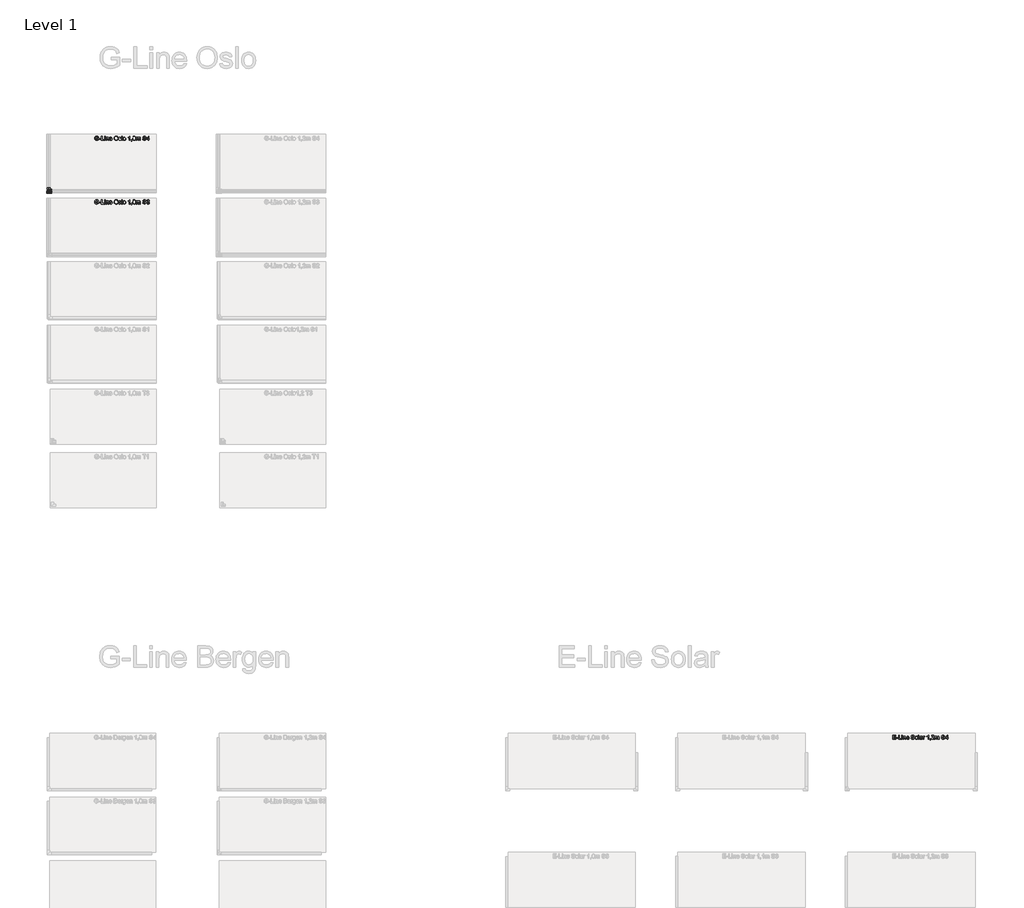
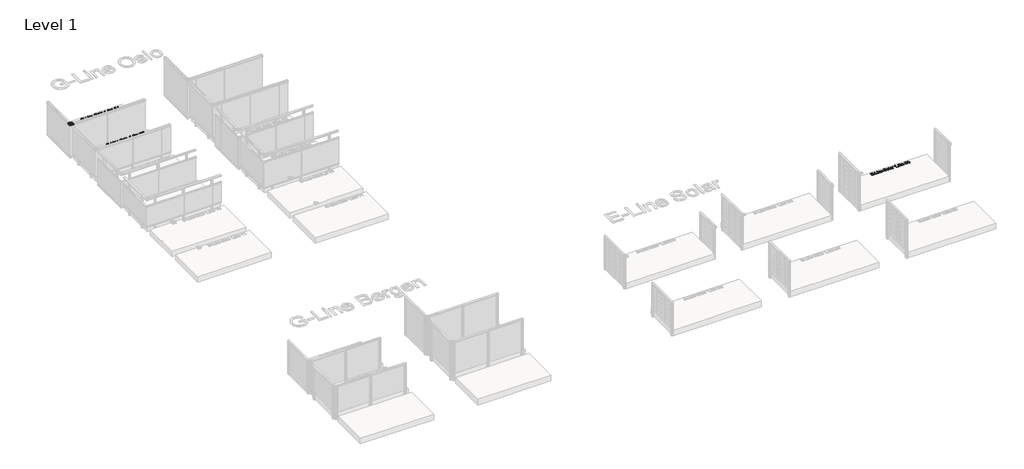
# One storey, part 65 of 66: 4 proxies.
"""IFC4 building model written with IfcOpenShell, lengths in millimetres."""

from ifc_helpers import new_model, si_unit, origin, origin_with_axes, place, context, project, spatial, polyline, outline, extrude, transform, mapped, element, save
from components import generic_models_224f447f

model = new_model("IFC4")

# Units and contexts
model_context = context("Model", 3, world=origin())
ifc_project = project(units=[si_unit("LENGTHUNIT", "METRE", prefix="MILLI")], contexts=[model_context])

# Site, building, storey
site = spatial("IfcSite", under=ifc_project)
building = spatial("IfcBuilding", under=site)
storey = spatial("IfcBuildingStorey", under=building, Name="Level 1", Elevation=0.0)

# Proxies
placement = place(None, origin())
generic_models_shape = generic_models_224f447f(model_context)
element("IfcBuildingElementProxy", 1, Name="Innore top rail 81x35 corner element : Innore top rail 81x35 element", ObjectType="Innore top rail 81x35 corner element : Innore top rail 81x35 element", at=placement, inside=storey, context=model_context, shape_type="MappedRepresentation", body=[
    mapped(generic_models_shape, transform((4465.4055183, 17090.2194821, 1000.0), x_axis=(0.0, -1.0, 0.0), y_axis=(1.0, 0.0, 0.0), z_axis=(0.0, 0.0, 1.0))),
])
element("IfcBuildingElementProxy", 2, Name="100mm Arial", ObjectType="100mm Arial", at=placement, inside=storey, context=model_context, shape_type="SweptSolid", body=[
    extrude(outline(polyline([(5608.6537991, 16829.5293902), (5608.6537991, 16842.086429), (5649.4641751, 16842.086429), (5649.4641751, 16804.53794), (5629.3165045, 16792.6921398), (5608.0161369, 16788.7190142), (5593.9293222, 16790.2978411), (5581.1975395, 16795.0343218), (5570.6209321, 16802.7629094), (5562.9996435, 16813.318057), (5558.3919215, 16825.979329), (5556.8560141, 16840.0262898), (5558.3857901, 16854.1744182), (5562.975118, 16867.3353966), (5570.4339255, 16878.3749221), (5580.5721401, 16886.158692), (5592.9207124, 16890.7756111), (5607.0105928, 16892.3145841), (5626.6554914, 16888.7461287), (5640.4265407, 16878.8133149), (5648.0171726, 16862.1973114), (5636.4411524, 16858.9354244), (5630.714456, 16870.5482327), (5620.928795, 16877.243685), (5606.8143891, 16879.7575453), (5590.7379459, 16877.0474813), (5579.7995879, 16869.935096), (5573.3371275, 16860.2597996), (5569.4130529, 16840.5413246), (5574.1342052, 16818.6523459), (5587.8684663, 16805.5557469), (5607.0105928, 16801.276053), (5624.190682, 16804.5011518), (5636.9071363, 16811.3805451), (5636.9071363, 16829.5293902), (5608.6537991, 16829.5293902)])), origin_with_axes(), (0.0, 0.0, 1.0), 10.0),
    extrude(outline(polyline([(5662.0212138, 16820.1116112), (5662.0212138, 16832.6686499), (5701.26196, 16832.6686499), (5701.26196, 16820.1116112), (5662.0212138, 16820.1116112)])), origin_with_axes(), (0.0, 0.0, 1.0), 10.0),
    extrude(outline(polyline([(5716.9582584, 16790.2886441), (5716.9582584, 16890.7449542), (5729.5152972, 16890.7449542), (5729.5152972, 16802.8456829), (5779.7434523, 16802.8456829), (5779.7434523, 16790.2886441), (5716.9582584, 16790.2886441)])), origin_with_axes(), (0.0, 0.0, 1.0), 10.0),
    extrude(outline(polyline([(5792.3004911, 16878.1879155), (5792.3004911, 16890.7449542), (5804.8575298, 16890.7449542), (5804.8575298, 16878.1879155), (5792.3004911, 16878.1879155)])), origin_with_axes(), (0.0, 0.0, 1.0), 10.0),
    extrude(outline(polyline([(5792.3004911, 16790.2886441), (5792.3004911, 16864.0612468), (5804.8575298, 16864.0612468), (5804.8575298, 16790.2886441), (5792.3004911, 16790.2886441)])), origin_with_axes(), (0.0, 0.0, 1.0), 10.0),
    extrude(outline(polyline([(5823.693088, 16790.2886441), (5823.693088, 16864.0612468), (5836.2501268, 16864.0612468), (5836.2501268, 16853.760551), (5845.8518468, 16862.6632953), (5858.9607086, 16865.6308767), (5870.8187716, 16863.2396437), (5878.9121755, 16856.9611243), (5882.6768345, 16847.7272863), (5883.3390221, 16835.5871804), (5883.3390221, 16790.2886441), (5870.7819834, 16790.2886441), (5870.7819834, 16833.8949232), (5869.3349809, 16845.0049595), (5864.2214211, 16850.8788087), (5855.6007197, 16853.0738379), (5841.9768231, 16848.1442192), (5837.6818009, 16841.0011771), (5836.2501268, 16829.4312884), (5836.2501268, 16790.2886441), (5823.693088, 16790.2886441)])), origin_with_axes(), (0.0, 0.0, 1.0), 10.0),
    extrude(outline(polyline([(5952.2555826, 16812.2634619), (5964.5673667, 16810.6938321), (5960.1313229, 16801.4170744), (5953.0526602, 16794.4824988), (5943.490794, 16790.1598854), (5931.6051399, 16788.7190142), (5916.871466, 16791.2052834), (5905.5345692, 16798.6640908), (5898.305688, 16810.6110586), (5895.8960609, 16826.5618088), (5898.3302134, 16843.0490536), (5905.632671, 16855.3792318), (5916.8162837, 16863.0679655), (5930.8939014, 16865.6308767), (5944.5331263, 16863.0740968), (5955.4316305, 16855.4037572), (5962.5777382, 16843.0981045), (5964.9597741, 16826.6353852), (5964.8861977, 16823.2508709), (5908.4530997, 16823.2508709), (5910.6266691, 16813.8514859), (5915.6758495, 16806.9414357), (5922.9629787, 16802.6923987), (5931.8503946, 16801.276053), (5944.1621787, 16803.9002779), (5952.2555826, 16812.2634619)]), holes=[polyline([(5908.4530997, 16835.8079096), (5952.4027354, 16835.8079096), (5947.3750148, 16847.187726), (5940.0541631, 16851.6023099), (5930.8448504, 16853.0738379), (5915.3815439, 16848.3772111), (5910.5163045, 16842.8865723), (5908.4530997, 16835.8079096)])]), origin_with_axes(), (0.0, 0.0, 1.0), 10.0),
    extrude(outline(polyline([(6013.6182994, 16839.192424), (6016.9660255, 16861.4063651), (6027.009204, 16878.2124409), (6042.3437518, 16888.7890483), (6061.5655861, 16892.3145841), (6074.7418929, 16890.6591151), (6086.5570363, 16885.6927082), (6096.3672228, 16877.7648512), (6103.528659, 16867.225032), (6107.9064547, 16854.5821541), (6109.36572, 16840.3451209), (6107.8298126, 16825.9180153), (6103.2220907, 16813.0973278), (6095.7970057, 16802.5391145), (6085.8090095, 16794.8994318), (6074.0950337, 16790.2641186), (6061.4920097, 16788.7190142), (6048.1133678, 16790.4265998), (6036.2307793, 16795.5493566), (6026.4451183, 16803.6243664), (6019.3572585, 16814.188711), (6013.6182994, 16839.192424)]), holes=[polyline([(6026.1753381, 16839.0697966), (6028.6861327, 16823.3551041), (6036.2185166, 16811.3805451), (6047.540085, 16803.802176), (6061.4184333, 16801.276053), (6075.4991166, 16803.8267015), (6086.8390791, 16811.478647), (6094.3162807, 16823.8210879), (6096.8086812, 16840.4432228), (6092.5412501, 16861.1672418), (6080.0700504, 16874.8892402), (6061.6391625, 16879.7575453), (6048.1317619, 16877.4122976), (6036.6477123, 16870.3765544), (6028.7934317, 16857.8593695), (6026.1753381, 16839.0697966)])]), origin_with_axes(), (0.0, 0.0, 1.0), 10.0),
    extrude(outline(polyline([(6120.3531289, 16812.2634619), (6132.9101677, 16813.8330918), (6138.7227032, 16804.5134146), (6152.0400314, 16801.276053), (6164.8423248, 16804.2436344), (6169.0116541, 16811.2088669), (6164.8177994, 16816.8497241), (6151.8928786, 16820.4304422), (6132.9837441, 16826.5740715), (6124.7309246, 16833.7477704), (6121.9227587, 16843.876788), (6124.1791016, 16853.2332535), (6130.3349937, 16860.3824269), (6138.318033, 16864.098035), (6149.1215009, 16865.6308767), (6164.4008665, 16863.1660673), (6174.1129511, 16856.4951405), (6178.4294332, 16845.2256887), (6165.8723944, 16843.6560589), (6161.1512422, 16850.5845031), (6150.1025196, 16853.0738379), (6138.0850411, 16850.6948677), (6134.4797975, 16845.1521123), (6135.975851, 16841.4978178), (6140.660215, 16838.7264401), (6151.4759457, 16836.0531643), (6169.9068336, 16830.1425269), (6178.4662214, 16823.4470746), (6181.5686929, 16812.5332421), (6177.9266611, 16800.5157635), (6167.4174988, 16791.7969603), (6151.8683531, 16788.7190142), (6139.2070811, 16790.202805), (6129.9671117, 16794.6541771), (6123.7989569, 16802.0240797), (6120.3531289, 16812.2634619)])), origin_with_axes(), (0.0, 0.0, 1.0), 10.0),
    extrude(outline(polyline([(6195.6953615, 16790.2886441), (6195.6953615, 16890.7449542), (6208.2524003, 16890.7449542), (6208.2524003, 16790.2886441), (6195.6953615, 16790.2886441)])), origin_with_axes(), (0.0, 0.0, 1.0), 10.0),
    extrude(outline(polyline([(6223.9486987, 16827.1749455), (6226.6648941, 16844.9620399), (6234.8134803, 16857.4638964), (6244.8811843, 16863.5891316), (6256.935451, 16865.6308767), (6270.1270862, 16863.1446075), (6280.6638397, 16855.6858001), (6287.5708241, 16843.8430655), (6289.8731523, 16828.2050151), (6285.8019249, 16805.8623152), (6273.9438619, 16793.2194373), (6256.935451, 16788.7190142), (6243.5844002, 16791.1960863), (6233.0599095, 16798.6273026), (6226.2265014, 16810.7183575), (6223.9486987, 16827.1749455)]), holes=[polyline([(6236.5057375, 16827.1994709), (6237.9588714, 16815.834983), (6242.318273, 16807.7385134), (6248.8788353, 16802.8916681), (6256.935451, 16801.276053), (6264.9552785, 16802.9008652), (6271.503578, 16807.7753016), (6275.8629796, 16815.9790701), (6277.3161135, 16827.5918784), (6275.8537826, 16838.6252726), (6271.4667898, 16846.6113775), (6264.9092932, 16851.4582228), (6256.935451, 16853.0738379), (6248.8788353, 16851.4643542), (6242.318273, 16846.635903), (6237.9588714, 16838.5578275), (6236.5057375, 16827.1994709)])]), origin_with_axes(), (0.0, 0.0, 1.0), 10.0),
    extrude(outline(polyline([(6387.1902027, 16790.2886441), (6374.633164, 16790.2886441), (6374.633164, 16868.5739327), (6362.7383128, 16860.100384), (6349.5190864, 16853.760551), (6349.5190864, 16865.6308767), (6367.9254489, 16877.3785751), (6379.0967988, 16890.7449542), (6387.1902027, 16890.7449542), (6387.1902027, 16790.2886441)])), origin_with_axes(), (0.0, 0.0, 1.0), 10.0),
    extrude(outline(polyline([(6423.2916892, 16790.2886441), (6423.2916892, 16802.8456829), (6435.848728, 16802.8456829), (6435.848728, 16790.2886441), (6433.5923851, 16777.4495625), (6426.4309489, 16769.8834561), (6423.2916892, 16774.5923456), (6427.9024769, 16780.0124737), (6429.5456831, 16790.2886441), (6423.2916892, 16790.2886441)])), origin_with_axes(), (0.0, 0.0, 1.0), 10.0),
    extrude(outline(polyline([(6456.253916, 16839.7074588), (6459.9449986, 16868.6107209), (6470.9078821, 16885.2757752), (6489.2161427, 16890.7449542), (6503.8823716, 16887.5075927), (6514.0113892, 16878.1756527), (6519.8975011, 16863.3132201), (6522.1783695, 16839.7074588), (6518.524075, 16810.926824), (6507.5979798, 16794.2249814), (6499.3666201, 16790.095506), (6489.2161427, 16788.7190142), (6476.1685946, 16791.1102472), (6466.2603062, 16798.2839461), (6458.7555135, 16815.2739629), (6456.253916, 16839.7074588)]), holes=[polyline([(6468.8109547, 16839.7319842), (6470.2824827, 16819.9797868), (6474.6970666, 16808.5478538), (6481.2698916, 16803.0940032), (6489.2161427, 16801.276053), (6497.1623938, 16803.1001346), (6503.7352188, 16808.5723792), (6508.1498027, 16820.0104436), (6509.6213307, 16839.7319842), (6508.1988537, 16859.0396576), (6503.9314225, 16870.5604954), (6497.3708603, 16876.2810605), (6489.0689899, 16878.1879155), (6481.208578, 16876.507921), (6474.8932704, 16871.4679377), (6470.3315336, 16859.22973), (6468.8109547, 16839.7319842)])]), origin_with_axes(), (0.0, 0.0, 1.0), 10.0),
    extrude(outline(polyline([(6536.3050381, 16790.2886441), (6536.3050381, 16864.0612468), (6548.8620769, 16864.0612468), (6548.8620769, 16851.921141), (6557.495041, 16861.8662176), (6569.7822997, 16865.6308767), (6582.3638639, 16861.7926412), (6589.2800454, 16851.0382242), (6599.0779692, 16861.9827136), (6611.451067, 16865.6308767), (6620.8903058, 16864.1133635), (6627.8708667, 16859.5608238), (6632.1842831, 16851.8506303), (6633.6220886, 16840.8601557), (6633.6220886, 16790.2886441), (6621.0650498, 16790.2886441), (6621.0650498, 16835.4645531), (6619.9000901, 16845.94919), (6615.6817099, 16851.1118006), (6608.508011, 16853.0738379), (6596.1594387, 16848.0461173), (6592.4714217, 16841.5039492), (6591.2420827, 16831.9328859), (6591.2420827, 16790.2886441), (6578.685044, 16790.2886441), (6578.685044, 16836.8625047), (6575.7787762, 16849.027136), (6566.2506325, 16853.0738379), (6556.9554808, 16850.3760366), (6550.7750633, 16842.4788365), (6548.8620769, 16827.4937765), (6548.8620769, 16790.2886441), (6536.3050381, 16790.2886441)])), origin_with_axes(), (0.0, 0.0, 1.0), 10.0),
    extrude(outline(polyline([(6688.5591332, 16824.8205007), (6701.1161719, 16824.8205007), (6705.1628739, 16812.2511992), (6715.0466368, 16804.3049481), (6730.1052732, 16801.276053), (6743.2263977, 16803.5691841), (6751.6999463, 16809.872229), (6754.4835867, 16818.2967266), (6752.3989221, 16826.1326131), (6743.8640598, 16831.8347841), (6725.5803246, 16836.6295127), (6705.8986379, 16842.822193), (6695.2177973, 16852.1663957), (6691.6983929, 16864.649858), (6696.0516631, 16878.8623658), (6708.7681174, 16888.8932815), (6727.3829464, 16892.3145841), (6747.2485741, 16888.733866), (6760.492326, 16878.2124409), (6765.4709956, 16862.491617), (6752.9139569, 16862.491617), (6750.608563, 16869.984147), (6745.8015716, 16875.3920123), (6727.8734557, 16879.7575453), (6709.8962889, 16875.4410632), (6704.2554316, 16865.01774), (6708.2530827, 16856.3111995), (6728.7563725, 16849.2969161), (6750.976445, 16842.9938713), (6763.1288136, 16832.8158027), (6767.0406255, 16818.6155577), (6762.5402024, 16803.5937096), (6749.5907562, 16792.6308261), (6730.5957825, 16788.7190142), (6708.1672435, 16792.9373944), (6693.9792612, 16805.641586), (6688.5591332, 16824.8205007)])), origin_with_axes(), (0.0, 0.0, 1.0), 10.0),
    extrude(outline(polyline([(6781.1672941, 16816.9723515), (6793.7243329, 16818.5419813), (6800.6527771, 16805.322755), (6813.6144861, 16801.276053), (6822.2229248, 16802.6678732), (6828.8693261, 16806.8433339), (6834.5347089, 16820.626646), (6828.9183771, 16833.6128804), (6814.6445557, 16838.7509656), (6805.8399132, 16837.3775395), (6807.2378648, 16849.9345782), (6809.2489531, 16849.7874254), (6823.498249, 16853.392669), (6828.2439267, 16857.9666685), (6829.8258193, 16864.4781798), (6825.2395571, 16874.300629), (6813.4182823, 16878.1879155), (6801.4498548, 16874.2638408), (6795.2939627, 16862.491617), (6782.7369239, 16864.0612468), (6786.434138, 16875.33683), (6793.0130943, 16883.7551963), (6802.0139405, 16888.9975148), (6812.9768239, 16890.7449542), (6828.1212994, 16887.2991262), (6838.7163009, 16877.8813471), (6842.3828581, 16865.2139438), (6838.9002419, 16853.6379237), (6828.599546, 16845.3237906), (6842.2847562, 16836.7398773), (6847.0917476, 16820.4059168), (6844.6882519, 16808.167709), (6837.4777648, 16797.9405896), (6826.5945891, 16791.0244081), (6813.1730277, 16788.7190142), (6801.0329218, 16790.6871829), (6791.1491589, 16796.5916889), (6784.275897, 16805.6231919), (6781.1672941, 16816.9723515)])), origin_with_axes(), (0.0, 0.0, 1.0), 10.0),
])
element("IfcBuildingElementProxy", 3, Name="100mm Arial", ObjectType="100mm Arial", at=placement, inside=storey, context=model_context, shape_type="SweptSolid", body=[
    extrude(outline(polyline([(5608.6537991, 18329.5293902), (5608.6537991, 18342.086429), (5649.4641751, 18342.086429), (5649.4641751, 18304.53794), (5629.3165045, 18292.6921398), (5608.0161369, 18288.7190142), (5593.9293222, 18290.2978411), (5581.1975395, 18295.0343218), (5570.6209321, 18302.7629094), (5562.9996435, 18313.318057), (5558.3919215, 18325.979329), (5556.8560141, 18340.0262898), (5558.3857901, 18354.1744182), (5562.975118, 18367.3353966), (5570.4339255, 18378.3749221), (5580.5721401, 18386.158692), (5592.9207124, 18390.7756111), (5607.0105928, 18392.3145841), (5626.6554914, 18388.7461287), (5640.4265407, 18378.8133149), (5648.0171726, 18362.1973114), (5636.4411524, 18358.9354244), (5630.714456, 18370.5482327), (5620.928795, 18377.243685), (5606.8143891, 18379.7575453), (5590.7379459, 18377.0474813), (5579.7995879, 18369.935096), (5573.3371275, 18360.2597996), (5569.4130529, 18340.5413246), (5574.1342052, 18318.6523459), (5587.8684663, 18305.5557469), (5607.0105928, 18301.276053), (5624.190682, 18304.5011518), (5636.9071363, 18311.3805451), (5636.9071363, 18329.5293902), (5608.6537991, 18329.5293902)])), origin_with_axes(), (0.0, 0.0, 1.0), 10.0),
    extrude(outline(polyline([(5662.0212138, 18320.1116112), (5662.0212138, 18332.6686499), (5701.26196, 18332.6686499), (5701.26196, 18320.1116112), (5662.0212138, 18320.1116112)])), origin_with_axes(), (0.0, 0.0, 1.0), 10.0),
    extrude(outline(polyline([(5716.9582584, 18290.2886441), (5716.9582584, 18390.7449542), (5729.5152972, 18390.7449542), (5729.5152972, 18302.8456829), (5779.7434523, 18302.8456829), (5779.7434523, 18290.2886441), (5716.9582584, 18290.2886441)])), origin_with_axes(), (0.0, 0.0, 1.0), 10.0),
    extrude(outline(polyline([(5792.3004911, 18378.1879155), (5792.3004911, 18390.7449542), (5804.8575298, 18390.7449542), (5804.8575298, 18378.1879155), (5792.3004911, 18378.1879155)])), origin_with_axes(), (0.0, 0.0, 1.0), 10.0),
    extrude(outline(polyline([(5792.3004911, 18290.2886441), (5792.3004911, 18364.0612468), (5804.8575298, 18364.0612468), (5804.8575298, 18290.2886441), (5792.3004911, 18290.2886441)])), origin_with_axes(), (0.0, 0.0, 1.0), 10.0),
    extrude(outline(polyline([(5823.693088, 18290.2886441), (5823.693088, 18364.0612468), (5836.2501268, 18364.0612468), (5836.2501268, 18353.760551), (5845.8518468, 18362.6632953), (5858.9607086, 18365.6308767), (5870.8187716, 18363.2396437), (5878.9121755, 18356.9611243), (5882.6768345, 18347.7272863), (5883.3390221, 18335.5871804), (5883.3390221, 18290.2886441), (5870.7819834, 18290.2886441), (5870.7819834, 18333.8949232), (5869.3349809, 18345.0049595), (5864.2214211, 18350.8788087), (5855.6007197, 18353.0738379), (5841.9768231, 18348.1442192), (5837.6818009, 18341.0011771), (5836.2501268, 18329.4312884), (5836.2501268, 18290.2886441), (5823.693088, 18290.2886441)])), origin_with_axes(), (0.0, 0.0, 1.0), 10.0),
    extrude(outline(polyline([(5952.2555826, 18312.2634619), (5964.5673667, 18310.6938321), (5960.1313229, 18301.4170744), (5953.0526602, 18294.4824988), (5943.490794, 18290.1598854), (5931.6051399, 18288.7190142), (5916.871466, 18291.2052834), (5905.5345692, 18298.6640908), (5898.305688, 18310.6110586), (5895.8960609, 18326.5618088), (5898.3302134, 18343.0490536), (5905.632671, 18355.3792318), (5916.8162837, 18363.0679655), (5930.8939014, 18365.6308767), (5944.5331263, 18363.0740968), (5955.4316305, 18355.4037572), (5962.5777382, 18343.0981045), (5964.9597741, 18326.6353852), (5964.8861977, 18323.2508709), (5908.4530997, 18323.2508709), (5910.6266691, 18313.8514859), (5915.6758495, 18306.9414357), (5922.9629787, 18302.6923987), (5931.8503946, 18301.276053), (5944.1621787, 18303.9002779), (5952.2555826, 18312.2634619)]), holes=[polyline([(5908.4530997, 18335.8079096), (5952.4027354, 18335.8079096), (5947.3750148, 18347.187726), (5940.0541631, 18351.6023099), (5930.8448504, 18353.0738379), (5915.3815439, 18348.3772111), (5910.5163045, 18342.8865723), (5908.4530997, 18335.8079096)])]), origin_with_axes(), (0.0, 0.0, 1.0), 10.0),
    extrude(outline(polyline([(6013.6182994, 18339.192424), (6016.9660255, 18361.4063651), (6027.009204, 18378.2124409), (6042.3437518, 18388.7890483), (6061.5655861, 18392.3145841), (6074.7418929, 18390.6591151), (6086.5570363, 18385.6927082), (6096.3672228, 18377.7648512), (6103.528659, 18367.225032), (6107.9064547, 18354.5821541), (6109.36572, 18340.3451209), (6107.8298126, 18325.9180153), (6103.2220907, 18313.0973278), (6095.7970057, 18302.5391145), (6085.8090095, 18294.8994318), (6074.0950337, 18290.2641186), (6061.4920097, 18288.7190142), (6048.1133678, 18290.4265998), (6036.2307793, 18295.5493566), (6026.4451183, 18303.6243664), (6019.3572585, 18314.188711), (6013.6182994, 18339.192424)]), holes=[polyline([(6026.1753381, 18339.0697966), (6028.6861327, 18323.3551041), (6036.2185166, 18311.3805451), (6047.540085, 18303.802176), (6061.4184333, 18301.276053), (6075.4991166, 18303.8267015), (6086.8390791, 18311.478647), (6094.3162807, 18323.8210879), (6096.8086812, 18340.4432228), (6092.5412501, 18361.1672418), (6080.0700504, 18374.8892402), (6061.6391625, 18379.7575453), (6048.1317619, 18377.4122976), (6036.6477123, 18370.3765544), (6028.7934317, 18357.8593695), (6026.1753381, 18339.0697966)])]), origin_with_axes(), (0.0, 0.0, 1.0), 10.0),
    extrude(outline(polyline([(6120.3531289, 18312.2634619), (6132.9101677, 18313.8330918), (6138.7227032, 18304.5134146), (6152.0400314, 18301.276053), (6164.8423248, 18304.2436344), (6169.0116541, 18311.2088669), (6164.8177994, 18316.8497241), (6151.8928786, 18320.4304422), (6132.9837441, 18326.5740715), (6124.7309246, 18333.7477704), (6121.9227587, 18343.876788), (6124.1791016, 18353.2332535), (6130.3349937, 18360.3824269), (6138.318033, 18364.098035), (6149.1215009, 18365.6308767), (6164.4008665, 18363.1660673), (6174.1129511, 18356.4951405), (6178.4294332, 18345.2256887), (6165.8723944, 18343.6560589), (6161.1512422, 18350.5845031), (6150.1025196, 18353.0738379), (6138.0850411, 18350.6948677), (6134.4797975, 18345.1521123), (6135.975851, 18341.4978178), (6140.660215, 18338.7264401), (6151.4759457, 18336.0531643), (6169.9068336, 18330.1425269), (6178.4662214, 18323.4470746), (6181.5686929, 18312.5332421), (6177.9266611, 18300.5157635), (6167.4174988, 18291.7969603), (6151.8683531, 18288.7190142), (6139.2070811, 18290.202805), (6129.9671117, 18294.6541771), (6123.7989569, 18302.0240797), (6120.3531289, 18312.2634619)])), origin_with_axes(), (0.0, 0.0, 1.0), 10.0),
    extrude(outline(polyline([(6195.6953615, 18290.2886441), (6195.6953615, 18390.7449542), (6208.2524003, 18390.7449542), (6208.2524003, 18290.2886441), (6195.6953615, 18290.2886441)])), origin_with_axes(), (0.0, 0.0, 1.0), 10.0),
    extrude(outline(polyline([(6223.9486987, 18327.1749455), (6226.6648941, 18344.9620399), (6234.8134803, 18357.4638964), (6244.8811843, 18363.5891316), (6256.935451, 18365.6308767), (6270.1270862, 18363.1446075), (6280.6638397, 18355.6858001), (6287.5708241, 18343.8430655), (6289.8731523, 18328.2050151), (6285.8019249, 18305.8623152), (6273.9438619, 18293.2194373), (6256.935451, 18288.7190142), (6243.5844002, 18291.1960863), (6233.0599095, 18298.6273026), (6226.2265014, 18310.7183575), (6223.9486987, 18327.1749455)]), holes=[polyline([(6236.5057375, 18327.1994709), (6237.9588714, 18315.834983), (6242.318273, 18307.7385134), (6248.8788353, 18302.8916681), (6256.935451, 18301.276053), (6264.9552785, 18302.9008652), (6271.503578, 18307.7753016), (6275.8629796, 18315.9790701), (6277.3161135, 18327.5918784), (6275.8537826, 18338.6252726), (6271.4667898, 18346.6113775), (6264.9092932, 18351.4582228), (6256.935451, 18353.0738379), (6248.8788353, 18351.4643542), (6242.318273, 18346.635903), (6237.9588714, 18338.5578275), (6236.5057375, 18327.1994709)])]), origin_with_axes(), (0.0, 0.0, 1.0), 10.0),
    extrude(outline(polyline([(6387.1902027, 18290.2886441), (6374.633164, 18290.2886441), (6374.633164, 18368.5739327), (6362.7383128, 18360.100384), (6349.5190864, 18353.760551), (6349.5190864, 18365.6308767), (6367.9254489, 18377.3785751), (6379.0967988, 18390.7449542), (6387.1902027, 18390.7449542), (6387.1902027, 18290.2886441)])), origin_with_axes(), (0.0, 0.0, 1.0), 10.0),
    extrude(outline(polyline([(6423.2916892, 18290.2886441), (6423.2916892, 18302.8456829), (6435.848728, 18302.8456829), (6435.848728, 18290.2886441), (6433.5923851, 18277.4495625), (6426.4309489, 18269.8834561), (6423.2916892, 18274.5923456), (6427.9024769, 18280.0124737), (6429.5456831, 18290.2886441), (6423.2916892, 18290.2886441)])), origin_with_axes(), (0.0, 0.0, 1.0), 10.0),
    extrude(outline(polyline([(6456.253916, 18339.7074588), (6459.9449986, 18368.6107209), (6470.9078821, 18385.2757752), (6489.2161427, 18390.7449542), (6503.8823716, 18387.5075927), (6514.0113892, 18378.1756527), (6519.8975011, 18363.3132201), (6522.1783695, 18339.7074588), (6518.524075, 18310.926824), (6507.5979798, 18294.2249814), (6499.3666201, 18290.095506), (6489.2161427, 18288.7190142), (6476.1685946, 18291.1102472), (6466.2603062, 18298.2839461), (6458.7555135, 18315.2739629), (6456.253916, 18339.7074588)]), holes=[polyline([(6468.8109547, 18339.7319842), (6470.2824827, 18319.9797868), (6474.6970666, 18308.5478538), (6481.2698916, 18303.0940032), (6489.2161427, 18301.276053), (6497.1623938, 18303.1001346), (6503.7352188, 18308.5723792), (6508.1498027, 18320.0104436), (6509.6213307, 18339.7319842), (6508.1988537, 18359.0396576), (6503.9314225, 18370.5604954), (6497.3708603, 18376.2810605), (6489.0689899, 18378.1879155), (6481.208578, 18376.507921), (6474.8932704, 18371.4679377), (6470.3315336, 18359.22973), (6468.8109547, 18339.7319842)])]), origin_with_axes(), (0.0, 0.0, 1.0), 10.0),
    extrude(outline(polyline([(6536.3050381, 18290.2886441), (6536.3050381, 18364.0612468), (6548.8620769, 18364.0612468), (6548.8620769, 18351.921141), (6557.495041, 18361.8662176), (6569.7822997, 18365.6308767), (6582.3638639, 18361.7926412), (6589.2800454, 18351.0382242), (6599.0779692, 18361.9827136), (6611.451067, 18365.6308767), (6620.8903058, 18364.1133635), (6627.8708667, 18359.5608238), (6632.1842831, 18351.8506303), (6633.6220886, 18340.8601557), (6633.6220886, 18290.2886441), (6621.0650498, 18290.2886441), (6621.0650498, 18335.4645531), (6619.9000901, 18345.94919), (6615.6817099, 18351.1118006), (6608.508011, 18353.0738379), (6596.1594387, 18348.0461173), (6592.4714217, 18341.5039492), (6591.2420827, 18331.9328859), (6591.2420827, 18290.2886441), (6578.685044, 18290.2886441), (6578.685044, 18336.8625047), (6575.7787762, 18349.027136), (6566.2506325, 18353.0738379), (6556.9554808, 18350.3760366), (6550.7750633, 18342.4788365), (6548.8620769, 18327.4937765), (6548.8620769, 18290.2886441), (6536.3050381, 18290.2886441)])), origin_with_axes(), (0.0, 0.0, 1.0), 10.0),
    extrude(outline(polyline([(6688.5591332, 18324.8205007), (6701.1161719, 18324.8205007), (6705.1628739, 18312.2511992), (6715.0466368, 18304.3049481), (6730.1052732, 18301.276053), (6743.2263977, 18303.5691841), (6751.6999463, 18309.872229), (6754.4835867, 18318.2967266), (6752.3989221, 18326.1326131), (6743.8640598, 18331.8347841), (6725.5803246, 18336.6295127), (6705.8986379, 18342.822193), (6695.2177973, 18352.1663957), (6691.6983929, 18364.649858), (6696.0516631, 18378.8623658), (6708.7681174, 18388.8932815), (6727.3829464, 18392.3145841), (6747.2485741, 18388.733866), (6760.492326, 18378.2124409), (6765.4709956, 18362.491617), (6752.9139569, 18362.491617), (6750.608563, 18369.984147), (6745.8015716, 18375.3920123), (6727.8734557, 18379.7575453), (6709.8962889, 18375.4410632), (6704.2554316, 18365.01774), (6708.2530827, 18356.3111995), (6728.7563725, 18349.2969161), (6750.976445, 18342.9938713), (6763.1288136, 18332.8158027), (6767.0406255, 18318.6155577), (6762.5402024, 18303.5937096), (6749.5907562, 18292.6308261), (6730.5957825, 18288.7190142), (6708.1672435, 18292.9373944), (6693.9792612, 18305.641586), (6688.5591332, 18324.8205007)])), origin_with_axes(), (0.0, 0.0, 1.0), 10.0),
    extrude(outline(polyline([(6821.9776701, 18290.2886441), (6821.9776701, 18313.8330918), (6776.4584046, 18313.8330918), (6776.4584046, 18326.3901305), (6825.1169298, 18389.1753244), (6834.5347089, 18389.1753244), (6834.5347089, 18326.3901305), (6847.0917476, 18326.3901305), (6847.0917476, 18313.8330918), (6834.5347089, 18313.8330918), (6834.5347089, 18290.2886441), (6821.9776701, 18290.2886441)]), holes=[polyline([(6821.9776701, 18326.3901305), (6821.9776701, 18365.1894183), (6791.9094484, 18326.3901305), (6821.9776701, 18326.3901305)])]), origin_with_axes(), (0.0, 0.0, 1.0), 10.0),
])
element("IfcBuildingElementProxy", 4, Name="100mm Arial", ObjectType="100mm Arial", at=placement, inside=storey, context=model_context, shape_type="SweptSolid", body=[
    extrude(outline(polyline([(24354.036482, 4178.8815979), (24354.036482, 4279.3379081), (24426.2394549, 4279.3379081), (24426.2394549, 4266.7808693), (24366.5935207, 4266.7808693), (24366.5935207, 4236.9579022), (24423.1001952, 4236.9579022), (24423.1001952, 4224.4008635), (24366.5935207, 4224.4008635), (24366.5935207, 4191.4386367), (24427.8090847, 4191.4386367), (24427.8090847, 4178.8815979), (24354.036482, 4178.8815979)])), origin_with_axes(), (0.0, 0.0, 1.0), 10.0),
    extrude(outline(polyline([(24438.7964936, 4208.704565), (24438.7964936, 4221.2616038), (24478.0372398, 4221.2616038), (24478.0372398, 4208.704565), (24438.7964936, 4208.704565)])), origin_with_axes(), (0.0, 0.0, 1.0), 10.0),
    extrude(outline(polyline([(24493.7335383, 4178.8815979), (24493.7335383, 4279.3379081), (24506.290577, 4279.3379081), (24506.290577, 4191.4386367), (24556.5187321, 4191.4386367), (24556.5187321, 4178.8815979), (24493.7335383, 4178.8815979)])), origin_with_axes(), (0.0, 0.0, 1.0), 10.0),
    extrude(outline(polyline([(24569.0757709, 4266.7808693), (24569.0757709, 4279.3379081), (24581.6328096, 4279.3379081), (24581.6328096, 4266.7808693), (24569.0757709, 4266.7808693)])), origin_with_axes(), (0.0, 0.0, 1.0), 10.0),
    extrude(outline(polyline([(24569.0757709, 4178.8815979), (24569.0757709, 4252.6542007), (24581.6328096, 4252.6542007), (24581.6328096, 4178.8815979), (24569.0757709, 4178.8815979)])), origin_with_axes(), (0.0, 0.0, 1.0), 10.0),
    extrude(outline(polyline([(24600.4683678, 4178.8815979), (24600.4683678, 4252.6542007), (24613.0254066, 4252.6542007), (24613.0254066, 4242.3535048), (24622.6271266, 4251.2562491), (24635.7359884, 4254.2238305), (24647.5940514, 4251.8325976), (24655.6874553, 4245.5540782), (24659.4521144, 4236.3202401), (24660.1143019, 4224.1801343), (24660.1143019, 4178.8815979), (24647.5572632, 4178.8815979), (24647.5572632, 4222.4878771), (24646.1102607, 4233.5979133), (24640.9967009, 4239.4717625), (24632.3759995, 4241.6667918), (24618.752103, 4236.737173), (24614.4570807, 4229.594131), (24613.0254066, 4218.0242422), (24613.0254066, 4178.8815979), (24600.4683678, 4178.8815979)])), origin_with_axes(), (0.0, 0.0, 1.0), 10.0),
    extrude(outline(polyline([(24729.0308624, 4200.8564158), (24741.3426465, 4199.2867859), (24736.9066028, 4190.0100283), (24729.82794, 4183.0754527), (24720.2660738, 4178.7528392), (24708.3804197, 4177.3119681), (24693.6467458, 4179.7982372), (24682.309849, 4187.2570447), (24675.0809678, 4199.2040125), (24672.6713407, 4215.1547626), (24675.1054932, 4231.6420074), (24682.4079508, 4243.9721856), (24693.5915635, 4251.6609193), (24707.6691812, 4254.2238305), (24721.3084062, 4251.6670507), (24732.2069103, 4243.9967111), (24739.353018, 4231.6910583), (24741.7350539, 4215.228339), (24741.6614775, 4211.8438247), (24685.2283795, 4211.8438247), (24687.4019489, 4202.4444397), (24692.4511293, 4195.5343896), (24699.7382585, 4191.2853525), (24708.6256744, 4189.8690068), (24720.9374585, 4192.4932317), (24729.0308624, 4200.8564158)]), holes=[polyline([(24685.2283795, 4224.4008635), (24729.1780152, 4224.4008635), (24724.1502946, 4235.7806798), (24716.8294429, 4240.1952638), (24707.6201303, 4241.6667918), (24692.1568237, 4236.970165), (24687.2915843, 4231.4795262), (24685.2283795, 4224.4008635)])]), origin_with_axes(), (0.0, 0.0, 1.0), 10.0),
    extrude(outline(polyline([(24790.3935792, 4213.4134545), (24802.9506179, 4213.4134545), (24806.9973199, 4200.844153), (24816.8810828, 4192.8979019), (24831.9397192, 4189.8690068), (24845.0608437, 4192.1621379), (24853.5343923, 4198.4651828), (24856.3180327, 4206.8896805), (24854.2333681, 4214.725567), (24845.6985058, 4220.4277379), (24827.4147706, 4225.2224666), (24807.7330839, 4231.4151468), (24797.0522433, 4240.7593495), (24793.5328389, 4253.2428119), (24797.8861091, 4267.4553196), (24810.6025634, 4277.4862354), (24829.2173924, 4280.9075379), (24849.0830201, 4277.3268198), (24862.326772, 4266.8053948), (24867.3054416, 4251.0845708), (24854.7484029, 4251.0845708), (24852.443009, 4258.5771008), (24847.6360176, 4263.9849661), (24829.7079017, 4268.3504991), (24811.7307349, 4264.0340171), (24806.0898776, 4253.6106939), (24810.0875286, 4244.9041533), (24830.5908185, 4237.8898699), (24852.810891, 4231.5868251), (24864.9632596, 4221.4087566), (24868.8750715, 4207.2085115), (24864.3746484, 4192.1866634), (24851.4252022, 4181.22378), (24832.4302285, 4177.3119681), (24810.0016895, 4181.5303483), (24795.8137072, 4194.2345399), (24790.3935792, 4213.4134545)])), origin_with_axes(), (0.0, 0.0, 1.0), 10.0),
    extrude(outline(polyline([(24883.0017401, 4215.7678993), (24885.7179355, 4233.5549938), (24893.8665217, 4246.0568502), (24903.9342256, 4252.1820855), (24915.9884923, 4254.2238305), (24929.1801275, 4251.7375614), (24939.716881, 4244.2787539), (24946.6238655, 4232.4360194), (24948.9261936, 4216.7979689), (24944.8549662, 4194.455269), (24932.9969032, 4181.8123911), (24915.9884923, 4177.3119681), (24902.6374416, 4179.7890402), (24892.1129508, 4187.2202565), (24885.2795428, 4199.3113114), (24883.0017401, 4215.7678993)]), holes=[polyline([(24895.5587789, 4215.7924248), (24897.0119127, 4204.4279368), (24901.3713144, 4196.3314672), (24907.9318766, 4191.4846219), (24915.9884923, 4189.8690068), (24924.0083198, 4191.493819), (24930.5566193, 4196.3682554), (24934.916021, 4204.5720239), (24936.3691549, 4216.1848322), (24934.9068239, 4227.2182264), (24930.5198311, 4235.2043314), (24923.9623346, 4240.0511767), (24915.9884923, 4241.6667918), (24907.9318766, 4240.057308), (24901.3713144, 4235.2288568), (24897.0119127, 4227.1507814), (24895.5587789, 4215.7924248)])]), origin_with_axes(), (0.0, 0.0, 1.0), 10.0),
    extrude(outline(polyline([(24963.0528622, 4178.8815979), (24963.0528622, 4279.3379081), (24975.609901, 4279.3379081), (24975.609901, 4178.8815979), (24963.0528622, 4178.8815979)])), origin_with_axes(), (0.0, 0.0, 1.0), 10.0),
    extrude(outline(polyline([(25041.5343545, 4188.299377), (25029.3574605, 4179.7890402), (25015.9052422, 4177.3119681), (25005.4114083, 4178.8018902), (24997.670558, 4183.2716564), (24992.8972891, 4190.0590792), (24991.3061995, 4198.501971), (24993.7096952, 4208.4347849), (25000.0250028, 4215.645272), (25008.8173824, 4219.7655503), (25019.682164, 4221.6540112), (25041.4607781, 4225.9704933), (25041.5343545, 4228.7663965), (25038.0762638, 4238.0370227), (25024.1948498, 4241.6667918), (25011.4906583, 4239.2510333), (25005.4328681, 4230.6793828), (24992.8758293, 4232.2490127), (24998.3082201, 4244.5117459), (25009.2465781, 4251.6977075), (25025.8135306, 4254.2238305), (25041.0315825, 4251.9920131), (25049.6277584, 4246.387944), (25053.4782567, 4237.8653445), (25054.0913933, 4226.8779356), (25054.0913933, 4211.2552135), (25054.7290554, 4189.4398112), (25057.230653, 4178.8815979), (25044.6736142, 4178.8815979), (25041.5343545, 4188.299377)]), holes=[polyline([(25041.5343545, 4213.4134545), (25021.2763193, 4209.5629563), (25010.4728514, 4207.5273426), (25005.5800209, 4204.2164047), (25003.8632382, 4199.3848878), (25007.6033719, 4192.5913336), (25018.578518, 4189.8690068), (25031.2827096, 4192.8733765), (25039.4742154, 4200.1451772), (25041.4607781, 4209.8572619), (25041.5343545, 4213.4134545)])]), origin_with_axes(), (0.0, 0.0, 1.0), 10.0),
    extrude(outline(polyline([(25071.3573216, 4178.8815979), (25071.3573216, 4252.6542007), (25082.3447305, 4252.6542007), (25082.3447305, 4241.7403682), (25090.1438288, 4251.7958094), (25097.9919781, 4254.2238305), (25110.5980678, 4250.3488068), (25106.404213, 4239.0916178), (25097.5750451, 4241.6667918), (25090.4749226, 4239.1897197), (25085.9499741, 4232.3225891), (25083.9143604, 4217.6563602), (25083.9143604, 4178.8815979), (25071.3573216, 4178.8815979)])), origin_with_axes(), (0.0, 0.0, 1.0), 10.0),
    extrude(outline(polyline([(25201.6365988, 4178.8815979), (25189.0795601, 4178.8815979), (25189.0795601, 4257.1668865), (25177.1847089, 4248.6933379), (25163.9654825, 4242.3535048), (25163.9654825, 4254.2238305), (25182.371845, 4265.9715289), (25193.5431949, 4279.3379081), (25201.6365988, 4279.3379081), (25201.6365988, 4178.8815979)])), origin_with_axes(), (0.0, 0.0, 1.0), 10.0),
    extrude(outline(polyline([(25237.7380853, 4178.8815979), (25237.7380853, 4191.4386367), (25250.2951241, 4191.4386367), (25250.2951241, 4178.8815979), (25248.0387812, 4166.0425163), (25240.877345, 4158.4764099), (25237.7380853, 4163.1852995), (25242.348873, 4168.6054275), (25243.9920792, 4178.8815979), (25237.7380853, 4178.8815979)])), origin_with_axes(), (0.0, 0.0, 1.0), 10.0),
    extrude(outline(polyline([(25335.0551358, 4191.4386367), (25335.0551358, 4178.8815979), (25269.1306822, 4178.8815979), (25270.4795829, 4187.5390875), (25278.1070029, 4200.8686785), (25293.8278268, 4215.4245428), (25315.5083391, 4236.3447656), (25320.9284671, 4250.569536), (25315.8149074, 4262.0842425), (25302.460791, 4266.7808693), (25288.5425888, 4262.1946071), (25283.2573508, 4249.514941), (25270.7003121, 4251.0845708), (25273.7445356, 4263.230808), (25280.3265576, 4272.1028955), (25290.1030216, 4277.5291549), (25302.7305711, 4279.3379081), (25315.4500911, 4277.3268198), (25325.208161, 4271.2935551), (25331.4161697, 4262.2804462), (25333.4855059, 4251.3298255), (25331.2536885, 4239.4227116), (25323.8347349, 4227.1109275), (25305.8453053, 4209.9063128), (25291.3998057, 4197.8275207), (25285.7344229, 4191.4386367), (25335.0551358, 4191.4386367)])), origin_with_axes(), (0.0, 0.0, 1.0), 10.0),
    extrude(outline(polyline([(25350.7514342, 4178.8815979), (25350.7514342, 4252.6542007), (25363.308473, 4252.6542007), (25363.308473, 4240.5140948), (25371.9414371, 4250.4591714), (25384.2286958, 4254.2238305), (25396.81026, 4250.385595), (25403.7264415, 4239.6311781), (25413.5243653, 4250.5756674), (25425.8974631, 4254.2238305), (25435.336702, 4252.7063173), (25442.3172628, 4248.1537776), (25446.6306792, 4240.4435841), (25448.0684847, 4229.4531095), (25448.0684847, 4178.8815979), (25435.5114459, 4178.8815979), (25435.5114459, 4224.0575069), (25434.3464863, 4234.5421438), (25430.128106, 4239.7047545), (25422.9544071, 4241.6667918), (25410.6058348, 4236.6390712), (25406.9178178, 4230.096903), (25405.6884788, 4220.5258398), (25405.6884788, 4178.8815979), (25393.1314401, 4178.8815979), (25393.1314401, 4225.4554585), (25390.2251723, 4237.6200898), (25380.6970286, 4241.6667918), (25371.4018769, 4238.9689905), (25365.2214594, 4231.0717903), (25363.308473, 4216.0867304), (25363.308473, 4178.8815979), (25350.7514342, 4178.8815979)])), origin_with_axes(), (0.0, 0.0, 1.0), 10.0),
    extrude(outline(polyline([(25503.0055293, 4213.4134545), (25515.5625681, 4213.4134545), (25519.60927, 4200.844153), (25529.4930329, 4192.8979019), (25544.5516693, 4189.8690068), (25557.6727938, 4192.1621379), (25566.1463424, 4198.4651828), (25568.9299828, 4206.8896805), (25566.8453182, 4214.725567), (25558.3104559, 4220.4277379), (25540.0267207, 4225.2224666), (25520.345034, 4231.4151468), (25509.6641934, 4240.7593495), (25506.144789, 4253.2428119), (25510.4980593, 4267.4553196), (25523.2145136, 4277.4862354), (25541.8293425, 4280.9075379), (25561.6949703, 4277.3268198), (25574.9387221, 4266.8053948), (25579.9173917, 4251.0845708), (25567.360353, 4251.0845708), (25565.0549591, 4258.5771008), (25560.2479677, 4263.9849661), (25542.3198518, 4268.3504991), (25524.342685, 4264.0340171), (25518.7018278, 4253.6106939), (25522.6994788, 4244.9041533), (25543.2027686, 4237.8898699), (25565.4228411, 4231.5868251), (25577.5752097, 4221.4087566), (25581.4870216, 4207.2085115), (25576.9865985, 4192.1866634), (25564.0371523, 4181.22378), (25545.0421786, 4177.3119681), (25522.6136396, 4181.5303483), (25508.4256574, 4194.2345399), (25503.0055293, 4213.4134545)])), origin_with_axes(), (0.0, 0.0, 1.0), 10.0),
    extrude(outline(polyline([(25636.4240662, 4178.8815979), (25636.4240662, 4202.4260456), (25590.9048007, 4202.4260456), (25590.9048007, 4214.9830844), (25639.5633259, 4277.7682782), (25648.981105, 4277.7682782), (25648.981105, 4214.9830844), (25661.5381437, 4214.9830844), (25661.5381437, 4202.4260456), (25648.981105, 4202.4260456), (25648.981105, 4178.8815979), (25636.4240662, 4178.8815979)]), holes=[polyline([(25636.4240662, 4214.9830844), (25636.4240662, 4253.7823721), (25606.3558445, 4214.9830844), (25636.4240662, 4214.9830844)])]), origin_with_axes(), (0.0, 0.0, 1.0), 10.0),
])

save(model, "model.ifc")
